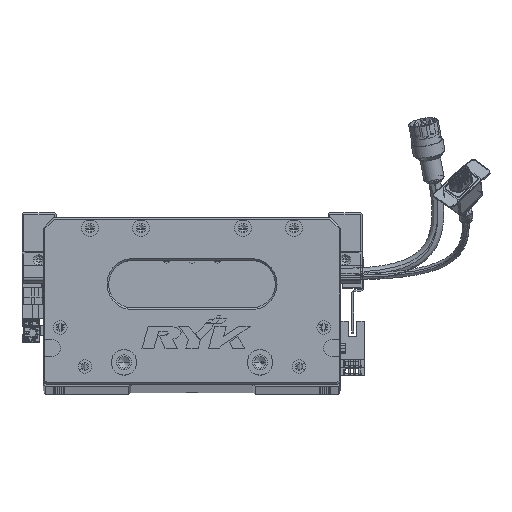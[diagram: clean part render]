
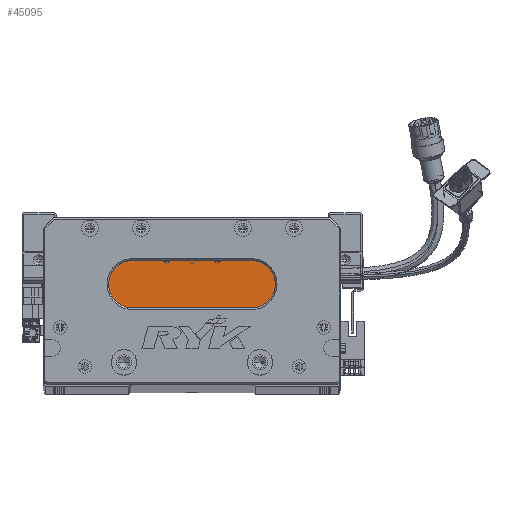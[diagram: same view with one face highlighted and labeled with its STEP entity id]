
A CAD part, top view. The second image highlights one B-rep face of the part: STEP entity #45095.
In plain terms, the highlighted planar face has unit normal (0, 0, 1) as drawn and (0, 0, -1) by its records, which use the part's own axes.
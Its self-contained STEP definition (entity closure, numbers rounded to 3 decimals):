
#784 = EDGE_CURVE ( 'NONE', #97455, #99562, #92692, .T. ) ;
#1563 = CIRCLE ( 'NONE', #49596, 14. ) ;
#5338 = DIRECTION ( 'NONE',  ( 0., 0., -1. ) ) ;
#7622 = DIRECTION ( 'NONE',  ( -1., 0., 0. ) ) ;
#11557 = VERTEX_POINT ( 'NONE', #87875 ) ;
#11758 = PLANE ( 'NONE',  #107582 ) ;
#18765 = CARTESIAN_POINT ( 'NONE',  ( 52.5, 59., 18. ) ) ;
#21786 = ORIENTED_EDGE ( 'NONE', *, *, #27181, .T. ) ;
#22551 = VECTOR ( 'NONE', #25422, 1000. ) ;
#23000 = EDGE_CURVE ( 'NONE', #99562, #57864, #96398, .T. ) ;
#23092 = ORIENTED_EDGE ( 'NONE', *, *, #784, .T. ) ;
#23601 = CARTESIAN_POINT ( 'NONE',  ( 38.5, 59., 18. ) ) ;
#25422 = DIRECTION ( 'NONE',  ( 1., 0., 0. ) ) ;
#27181 = EDGE_CURVE ( 'NONE', #11557, #41180, #1563, .T. ) ;
#35036 = CARTESIAN_POINT ( 'NONE',  ( 122.5, 59., 18. ) ) ;
#38397 = DIRECTION ( 'NONE',  ( 0., 0., -1. ) ) ;
#39720 = ORIENTED_EDGE ( 'NONE', *, *, #86444, .T. ) ;
#41180 = VERTEX_POINT ( 'NONE', #75277 ) ;
#42366 = LINE ( 'NONE', #95439, #130292 ) ;
#44418 = DIRECTION ( 'NONE',  ( 0., 0., -1. ) ) ;
#45095 = ADVANCED_FACE ( 'NONE', ( #118445 ), #11758, .T. ) ;
#48479 = ORIENTED_EDGE ( 'NONE', *, *, #71923, .T. ) ;
#49596 = AXIS2_PLACEMENT_3D ( 'NONE', #35036, #44418, #63644 ) ;
#52363 = CARTESIAN_POINT ( 'NONE',  ( 122.5, 59., 18. ) ) ;
#55603 = EDGE_LOOP ( 'NONE', ( #21786, #39720, #23092, #63766, #48479 ) ) ;
#57864 = VERTEX_POINT ( 'NONE', #84420 ) ;
#60405 = AXIS2_PLACEMENT_3D ( 'NONE', #18765, #38397, #7622 ) ;
#63644 = DIRECTION ( 'NONE',  ( -1., 0., 0. ) ) ;
#63766 = ORIENTED_EDGE ( 'NONE', *, *, #23000, .T. ) ;
#71143 = DIRECTION ( 'NONE',  ( -1., 0., 0. ) ) ;
#71923 = EDGE_CURVE ( 'NONE', #57864, #11557, #78325, .T. ) ;
#75277 = CARTESIAN_POINT ( 'NONE',  ( 122.5, 45., 18. ) ) ;
#78325 = LINE ( 'NONE', #116473, #22551 ) ;
#84420 = CARTESIAN_POINT ( 'NONE',  ( 52.5, 73., 18. ) ) ;
#84692 = DIRECTION ( 'NONE',  ( -1., 0., 0. ) ) ;
#86444 = EDGE_CURVE ( 'NONE', #41180, #97455, #42366, .T. ) ;
#87412 = CARTESIAN_POINT ( 'NONE',  ( 52.5, 59., 18. ) ) ;
#87875 = CARTESIAN_POINT ( 'NONE',  ( 122.5, 73., 18. ) ) ;
#92692 = CIRCLE ( 'NONE', #60405, 14. ) ;
#95439 = CARTESIAN_POINT ( 'NONE',  ( 122.5, 45., 18. ) ) ;
#96398 = CIRCLE ( 'NONE', #110035, 14. ) ;
#97455 = VERTEX_POINT ( 'NONE', #111355 ) ;
#99562 = VERTEX_POINT ( 'NONE', #23601 ) ;
#101894 = DIRECTION ( 'NONE',  ( 0., 0., -1. ) ) ;
#105738 = DIRECTION ( 'NONE',  ( -1., 0., 0. ) ) ;
#107582 = AXIS2_PLACEMENT_3D ( 'NONE', #52363, #101894, #71143 ) ;
#110035 = AXIS2_PLACEMENT_3D ( 'NONE', #87412, #5338, #84692 ) ;
#111355 = CARTESIAN_POINT ( 'NONE',  ( 52.5, 45., 18. ) ) ;
#116473 = CARTESIAN_POINT ( 'NONE',  ( 122.5, 73., 18. ) ) ;
#118445 = FACE_OUTER_BOUND ( 'NONE', #55603, .T. ) ;
#130292 = VECTOR ( 'NONE', #105738, 1000. ) ;
